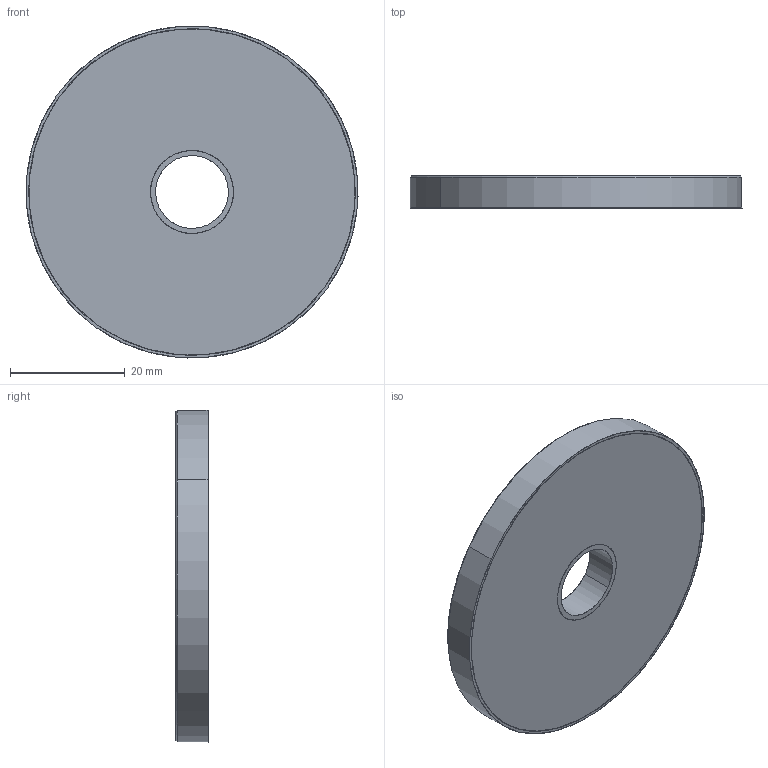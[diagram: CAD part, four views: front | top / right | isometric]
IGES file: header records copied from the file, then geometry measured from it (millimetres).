
Start section: SolidWorks IGES file using analytic representation for surfaces
Global section: file name: C:\Zettlex Data\Mechanical Drawings\1615\58mm Plain Rotor 12.70mm Rev 1-0.IGS; native system: SolidWorks 2015; preprocessor: SolidWorks 2015; author: Nigel; date: 150907.174152; units: millimetre
Bounding box: 57.98 x 5.6 x 57.98 mm (x, y, z)
Surface area: 6299.1 mm2 (no closed solid volume)
Topology: 0 solids, 0 shells, 654 faces, 7487 edges, 7487 vertices
Faces by surface type: bspline 640, revolution 14
